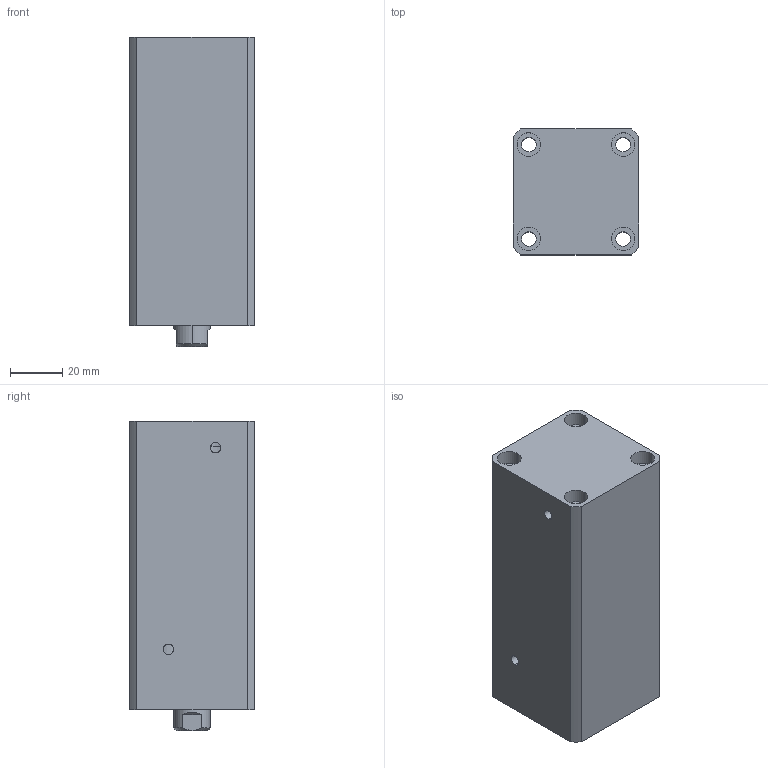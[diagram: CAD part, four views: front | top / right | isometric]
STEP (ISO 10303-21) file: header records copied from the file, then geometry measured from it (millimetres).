
FILE_DESCRIPTION (( 'STEP AP214' ), '1' );
FILE_NAME ('chtb-sdma25x65n_asm.STEP', '2018-05-22T07:08:14', ( 'Windows' ), ( 'Microsoft' ), 'SwSTEP 2.0', 'SolidWorks 2015', '' );
FILE_SCHEMA (( 'AUTOMOTIVE_DESIGN' ));
Length unit declared in the file: millimetre
Products named in the file (4): CHTB-SDMA25X65NHSG; CHTB-SDMA25X65NBT; CHTB-25QG; chtb-sdma25x65n_asm
Assembly tree (3 placements, depth 2):
  chtb-sdma25x65n_asm
    CHTB-25QG
    CHTB-SDMA25X65NBT
    CHTB-SDMA25X65NHSG
Bounding box: 48 x 48 x 118 mm (x, y, z)
Volume: 214929.3 mm3; surface area: 55095.3 mm2
Topology: 3 solids, 3 shells, 142 faces, 379 edges, 257 vertices
Faces by surface type: cylinder 89, plane 34, bspline 10, cone 9
Entity records: 8020 total; most frequent: CARTESIAN_POINT 4393, ORIENTED_EDGE 746, DIRECTION 661, EDGE_CURVE 373, AXIS2_PLACEMENT_3D 272, VERTEX_POINT 257, EDGE_LOOP 180, ADVANCED_FACE 142
